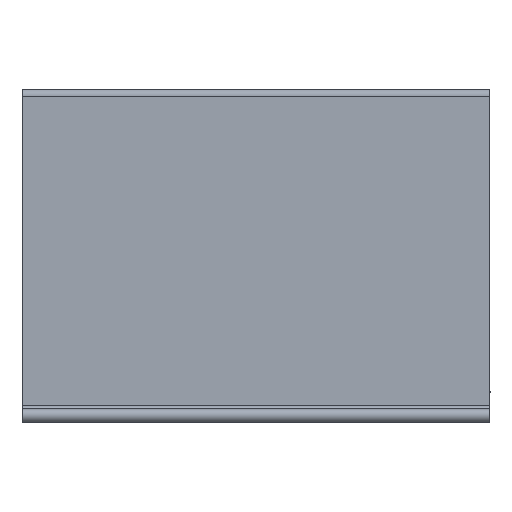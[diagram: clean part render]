
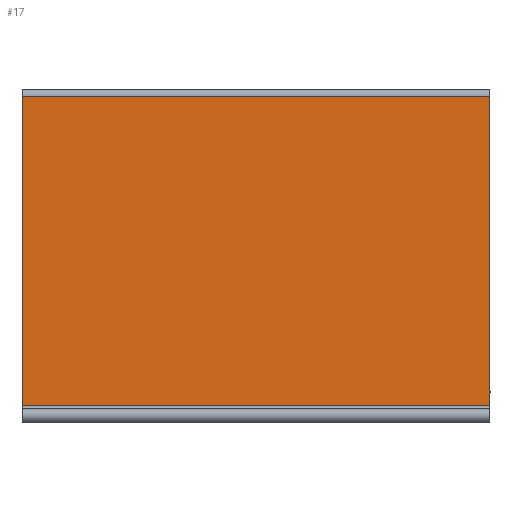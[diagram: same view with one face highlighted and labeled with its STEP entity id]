
A CAD part, left-side view. The second image highlights one B-rep face of the part: STEP entity #17.
In plain terms, the highlighted planar face has unit normal (-1, 0, 0).
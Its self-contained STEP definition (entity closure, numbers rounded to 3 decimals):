
#17=ADVANCED_FACE($,(#45),#401,.T.);
#45=FACE_OUTER_BOUND($,#73,.T.);
#73=EDGE_LOOP($,(#132,#133,#134,#135));
#132=ORIENTED_EDGE($,*,*,#286,.F.);
#133=ORIENTED_EDGE($,*,*,#287,.F.);
#134=ORIENTED_EDGE($,*,*,#288,.F.);
#135=ORIENTED_EDGE($,*,*,#282,.F.);
#282=EDGE_CURVE($,#358,#359,#457,.T.);
#286=EDGE_CURVE($,#362,#358,#458,.T.);
#287=EDGE_CURVE($,#363,#362,#459,.T.);
#288=EDGE_CURVE($,#359,#363,#460,.T.);
#358=VERTEX_POINT($,#1061);
#359=VERTEX_POINT($,#1062);
#362=VERTEX_POINT($,#1065);
#363=VERTEX_POINT($,#1066);
#401=PLANE($,#580);
#457=B_SPLINE_CURVE_WITH_KNOTS($,1,(#699,#700),.UNSPECIFIED.,.F.,.F.,(2,
2),(0.,297.5),.UNSPECIFIED.);
#458=B_SPLINE_CURVE_WITH_KNOTS($,1,(#724,#725),.UNSPECIFIED.,.F.,.F.,(2,
2),(-450.,0.),.UNSPECIFIED.);
#459=B_SPLINE_CURVE_WITH_KNOTS($,1,(#726,#727),.UNSPECIFIED.,.F.,.F.,(2,
2),(-297.5,0.),.UNSPECIFIED.);
#460=B_SPLINE_CURVE_WITH_KNOTS($,1,(#728,#729),.UNSPECIFIED.,.F.,.F.,(2,
2),(0.,450.),.UNSPECIFIED.);
#580=AXIS2_PLACEMENT_3D($,#872,#596,$);
#596=DIRECTION($,(-1.,0.,0.));
#699=CARTESIAN_POINT($,(0.,450.,6.));
#700=CARTESIAN_POINT($,(0.,450.,303.5));
#724=CARTESIAN_POINT($,(0.,0.,6.));
#725=CARTESIAN_POINT($,(0.,450.,6.));
#726=CARTESIAN_POINT($,(0.,0.,303.5));
#727=CARTESIAN_POINT($,(0.,0.,6.));
#728=CARTESIAN_POINT($,(0.,450.,303.5));
#729=CARTESIAN_POINT($,(0.,0.,303.5));
#872=CARTESIAN_POINT($,(0.,0.,303.5));
#1061=CARTESIAN_POINT($,(0.,450.,6.));
#1062=CARTESIAN_POINT($,(0.,450.,303.5));
#1065=CARTESIAN_POINT($,(0.,0.,6.));
#1066=CARTESIAN_POINT($,(0.,0.,303.5));
